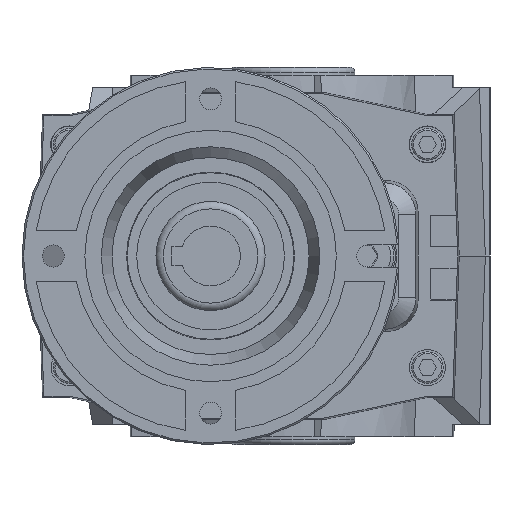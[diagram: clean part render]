
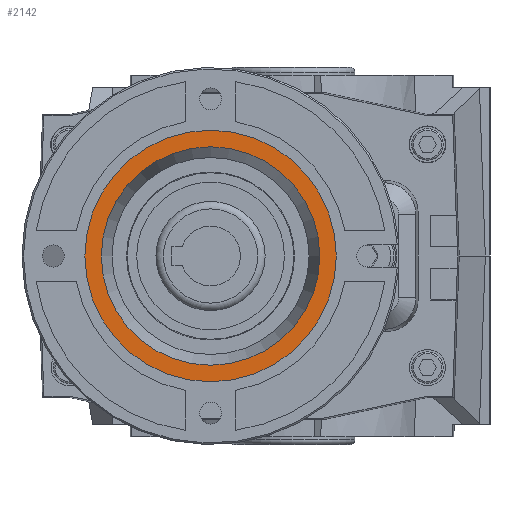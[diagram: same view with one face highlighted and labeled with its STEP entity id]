
A CAD part, left-side view. The second image highlights one B-rep face of the part: STEP entity #2142.
In plain terms, the highlighted planar face has unit normal (-1, 0, 0).
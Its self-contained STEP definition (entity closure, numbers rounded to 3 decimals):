
#2142 = ADVANCED_FACE( '', ( #4803, #4804 ), #4805, .T. );
#4803 = FACE_OUTER_BOUND( '', #8035, .T. );
#4804 = FACE_BOUND( '', #8036, .T. );
#4805 = PLANE( '', #8037 );
#8035 = EDGE_LOOP( '', ( #14725 ) );
#8036 = EDGE_LOOP( '', ( #14726 ) );
#8037 = AXIS2_PLACEMENT_3D( '', #14727, #14728, #14729 );
#14725 = ORIENTED_EDGE( '', *, *, #20363, .F. );
#14726 = ORIENTED_EDGE( '', *, *, #20140, .T. );
#14727 = CARTESIAN_POINT( '', ( -180., 65.9, 0. ) );
#14728 = DIRECTION( '', ( -1., 0., 0. ) );
#14729 = DIRECTION( '', ( 0., 0., -1. ) );
#20140 = EDGE_CURVE( '', #24669, #24669, #24670, .T. );
#20363 = EDGE_CURVE( '', #24962, #24962, #24963, .T. );
#24669 = VERTEX_POINT( '', #31840 );
#24670 = CIRCLE( '', #31841, 34.745 );
#24962 = VERTEX_POINT( '', #32329 );
#24963 = CIRCLE( '', #32330, 40. );
#31840 = CARTESIAN_POINT( '', ( -180., 60.645, 0. ) );
#31841 = AXIS2_PLACEMENT_3D( '', #36074, #36075, #36076 );
#32329 = CARTESIAN_POINT( '', ( -180., -14.1, 0. ) );
#32330 = AXIS2_PLACEMENT_3D( '', #36249, #36250, #36251 );
#36074 = CARTESIAN_POINT( '', ( -180., 25.9, 0. ) );
#36075 = DIRECTION( '', ( 1., 0., 0. ) );
#36076 = DIRECTION( '', ( 0., 1., 0. ) );
#36249 = CARTESIAN_POINT( '', ( -180., 25.9, 0. ) );
#36250 = DIRECTION( '', ( 1., 0., 0. ) );
#36251 = DIRECTION( '', ( 0., -1., 0. ) );
